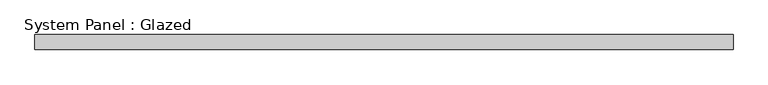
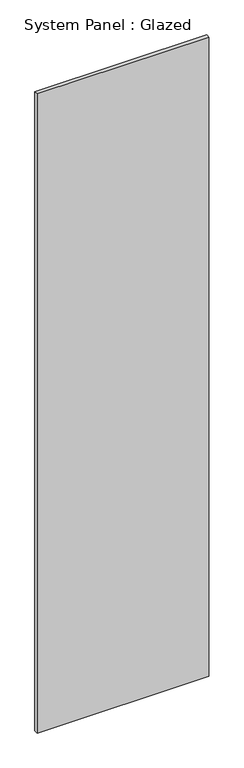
"""IFC4 building model written with IfcOpenShell, lengths in millimetres: plate geometry, System Panel : Glazed."""

import ifcopenshell
import ifcopenshell.guid

model = None  # the IFC model being written
_history = None  # IfcOwnerHistory: only IFC2X3 demands one
_inside = {}  # id of a spatial element -> (the spatial element, [elements in it])
_under = {}  # id of a project, library or spatial element -> (it, [spatial elements below it])
_declared = {}  # id of a project -> (the project, [libraries it declares])
_typed = {}  # id of a type object -> (the type object, [elements of that type])
_made_of = {}  # id of a material, layer set ... -> (it, [elements and type objects made of it])


def new_model(schema):
    """Start an empty IFC model of exactly this schema.

    Asked for "IFC4X3", IfcOpenShell would pick the latest addendum, in which some entities
    have other attributes; the version numbers below select the first issue.
    IFC2X3 requires an IfcOwnerHistory on every rooted entity: one is made here for all.
    """
    global model, _history
    if schema == "IFC4X3":
        model = ifcopenshell.file(schema_version=(4, 3, 0, 0))
    else:
        model = ifcopenshell.file(schema=schema)
    _inside.clear()
    _under.clear()
    _declared.clear()
    _typed.clear()
    _made_of.clear()
    _history = None
    if model.schema == "IFC2X3":
        org = make("IfcOrganization", Name="unknown")
        user = make(
            "IfcPersonAndOrganization",
            ThePerson=make("IfcPerson", FamilyName="unknown"),
            TheOrganization=org,
        )
        app = make(
            "IfcApplication",
            ApplicationDeveloper=org,
            Version="unknown",
            ApplicationFullName="unknown",
            ApplicationIdentifier="unknown",
        )
        _history = make(
            "IfcOwnerHistory",
            OwningUser=user,
            OwningApplication=app,
            ChangeAction="ADDED",
            CreationDate=0,
        )
    return model


def make(cls, **values):
    """One entity of the class cls with the attributes given. An attribute that is None is left unset."""
    return model.create_entity(
        cls, **{name: value for name, value in values.items() if value is not None}
    )


def rooted(cls, **values):
    """An entity with a GlobalId (a new one), such as an element, a storey or a relation."""
    return make(cls, GlobalId=ifcopenshell.guid.new(), OwnerHistory=_history, **values)


def si_unit(unit_type, name, prefix=None):
    """IfcSIUnit, for example si_unit("LENGTHUNIT", "METRE", prefix="MILLI")."""
    return make("IfcSIUnit", UnitType=unit_type, Prefix=prefix, Name=name)


def assignment(units):
    """IfcUnitAssignment: the units of a project."""
    return None if units is None else make("IfcUnitAssignment", Units=units)


def point(xyz):
    """IfcCartesianPoint."""
    return None if xyz is None else make("IfcCartesianPoint", Coordinates=xyz)


def direction(xyz):
    """IfcDirection."""
    return None if xyz is None else make("IfcDirection", DirectionRatios=xyz)


def frame(location, z_axis=None, x_axis=None):
    """IfcAxis2Placement3D, a coordinate frame: its origin and axes. An axis left out is left unset."""
    return make(
        "IfcAxis2Placement3D",
        Location=point(location),
        Axis=direction(z_axis),
        RefDirection=direction(x_axis),
    )


def origin():
    """The frame at (0, 0, 0) with its axes left unset."""
    return frame((0.0, 0.0, 0.0))


def origin_with_axes():
    """The frame at (0, 0, 0) with the z axis (0, 0, 1) and the x axis (1, 0, 0) written out."""
    return frame((0.0, 0.0, 0.0), z_axis=(0.0, 0.0, 1.0), x_axis=(1.0, 0.0, 0.0))


def place(relative_to, where):
    """IfcLocalPlacement: puts the frame where relative to a parent placement (None: the world)."""
    return make(
        "IfcLocalPlacement", PlacementRelTo=relative_to, RelativePlacement=where
    )


def context(
    kind, dimensions, precision=None, world=None, true_north=None, identifier=None
):
    """IfcGeometricRepresentationContext, for example the 3D "Model" context."""
    return make(
        "IfcGeometricRepresentationContext",
        ContextIdentifier=identifier,
        ContextType=kind,
        CoordinateSpaceDimension=dimensions,
        Precision=precision,
        WorldCoordinateSystem=world,
        TrueNorth=true_north,
    )


def project(units=None, contexts=None):
    """IfcProject with its units and contexts."""
    return rooted(
        "IfcProject",
        Name="project",
        RepresentationContexts=contexts,
        UnitsInContext=assignment(units),
    )


def spatial(cls, under=None, at=None, **own):
    """A site, building, storey or space (cls), placed at a placement, below another one or the project."""
    s = rooted(cls, ObjectPlacement=at, **own)
    if under is not None:
        _under.setdefault(under.id(), (under, []))[1].append(s)
    return s


def polyline(points):
    """IfcPolyline through the points."""
    return make("IfcPolyline", Points=[point(p) for p in points])


def outline(outer, holes=None, kind="AREA"):
    """IfcArbitraryClosedProfileDef: a profile drawn as a closed curve; with holes, ...WithVoids."""
    if holes is None:
        return make("IfcArbitraryClosedProfileDef", ProfileType=kind, OuterCurve=outer)
    return make(
        "IfcArbitraryProfileDefWithVoids",
        ProfileType=kind,
        OuterCurve=outer,
        InnerCurves=holes,
    )


def extrude(swept, where, along, depth):
    """IfcExtrudedAreaSolid: the profile swept, set in the frame where, extruded along a direction by depth."""
    return make(
        "IfcExtrudedAreaSolid",
        SweptArea=swept,
        Position=where,
        ExtrudedDirection=direction(along),
        Depth=depth,
    )


def shape(context_of_items, identifier, shape_type, items):
    """IfcShapeRepresentation: the items that make up one representation, for example the "Body"."""
    return make(
        "IfcShapeRepresentation",
        ContextOfItems=context_of_items,
        RepresentationIdentifier=identifier,
        RepresentationType=shape_type,
        Items=items,
    )


def source(mapping_origin, context_of_items, identifier, shape_type, items):
    """IfcRepresentationMap: a shape defined once, which mapped items show again and again."""
    return make(
        "IfcRepresentationMap",
        MappingOrigin=mapping_origin,
        MappedRepresentation=shape(context_of_items, identifier, shape_type, items),
    )


def transform(
    local_origin,
    x_axis=None,
    y_axis=None,
    z_axis=None,
    scale=None,
    scale2=None,
    scale3=None,
    uniform=True,
):
    """IfcCartesianTransformationOperator3D, or its non-uniform kind. x_axis, y_axis, z_axis: its Axis1, 2, 3."""
    if uniform:
        return make(
            "IfcCartesianTransformationOperator3D",
            Axis1=direction(x_axis),
            Axis2=direction(y_axis),
            LocalOrigin=point(local_origin),
            Scale=scale,
            Axis3=direction(z_axis),
        )
    return make(
        "IfcCartesianTransformationOperator3DnonUniform",
        Axis1=direction(x_axis),
        Axis2=direction(y_axis),
        LocalOrigin=point(local_origin),
        Scale=scale,
        Axis3=direction(z_axis),
        Scale2=scale2,
        Scale3=scale3,
    )


def mapped(mapping_source, mapping_target):
    """IfcMappedItem: shows the shape of a source again, moved by a transform."""
    return make(
        "IfcMappedItem", MappingSource=mapping_source, MappingTarget=mapping_target
    )


def made_of(thing, what):
    """Note that an element or type object is made of a material, layer set ...; save() writes the relation."""
    if what is not None:
        _made_of.setdefault(what.id(), (what, []))[1].append(thing)
    return thing


def element(
    cls,
    number,
    at=None,
    inside=None,
    cuts=None,
    type_object=None,
    material=None,
    context=None,
    identifier="Body",
    shape_type=None,
    held_by="IfcProductDefinitionShape",
    body=None,
    shapes=None,
    **own,
):
    """One element of the class cls, such as IfcWall. Its Tag is "e" and its number.

    at: its placement. inside: the storey or other place that contains it. cuts: it is an
    opening in that element (IfcRelVoidsElement). A single representation is given by context,
    identifier, shape_type and body (its items); several are given by shapes. held_by: the class
    of the entity that holds the representations. save() writes the other relations.
    """
    e = rooted(cls, Tag="e%d" % number, ObjectPlacement=at, **own)
    if body is not None:
        shapes = [shape(context, identifier, shape_type, body)]
    if shapes is not None:
        e.Representation = make(held_by, Representations=shapes)
    if inside is not None:
        _inside.setdefault(inside.id(), (inside, []))[1].append(e)
    if cuts is not None:
        rooted(
            "IfcRelVoidsElement", RelatingBuildingElement=cuts, RelatedOpeningElement=e
        )
    if type_object is not None:
        _typed.setdefault(type_object.id(), (type_object, []))[1].append(e)
    return made_of(e, material)


def aggregate(whole, parts):
    """IfcRelAggregates: a whole, such as a stair, and the parts it consists of."""
    return rooted("IfcRelAggregates", RelatingObject=whole, RelatedObjects=parts)


def save(model, path):
    """Write the relations noted so far, then the file.

    IfcRelAggregates (storeys below a building ...), IfcRelContainedInSpatialStructure (elements
    in a storey), IfcRelDefinesByType, IfcRelAssociatesMaterial and IfcRelDeclares: one each for
    every whole, place, type object, material and project.
    """
    for whole, parts in _under.values():
        aggregate(whole, parts)
    for where, things in _inside.values():
        rooted(
            "IfcRelContainedInSpatialStructure",
            RelatedElements=things,
            RelatingStructure=where,
        )
    for kind, things in _typed.values():
        rooted("IfcRelDefinesByType", RelatedObjects=things, RelatingType=kind)
    for what, things in _made_of.values():
        rooted("IfcRelAssociatesMaterial", RelatedObjects=things, RelatingMaterial=what)
    for by, libraries in _declared.values():
        rooted("IfcRelDeclares", RelatingContext=by, RelatedDefinitions=libraries)
    model.write(path)


def system_panel_glazed_38880ecf(model_context):
    return source(origin(), model_context, "Body", "SweptSolid", [
        extrude(outline(polyline([(587.8744819, 19.05), (-587.8744819, 19.05), (-587.8744819, 44.45), (587.8744819, 44.45), (587.8744819, 19.05)])), origin_with_axes(), (0.0, 0.0, 1.0), 4629.15),
    ])


if __name__ == "__main__":
    model = new_model("IFC4")
    model_context = context("Model", 3, world=origin())
    ifc_project = project(units=[si_unit("LENGTHUNIT", "METRE", prefix="MILLI")], contexts=[model_context])
    site = spatial("IfcSite", under=ifc_project)
    building = spatial("IfcBuilding", under=site)
    placement = place(None, origin())
    system_panel_glazed_shape = system_panel_glazed_38880ecf(model_context)
    element("IfcPlate", 1, ObjectType="System Panel : Glazed", at=placement, inside=building, context=model_context, shape_type="MappedRepresentation", body=[
        mapped(system_panel_glazed_shape, transform((0.0, 0.0, 0.0), x_axis=(1.0, 0.0, 0.0), y_axis=(0.0, 1.0, 0.0), z_axis=(0.0, 0.0, 1.0))),
    ])
    save(model, "model.ifc")
